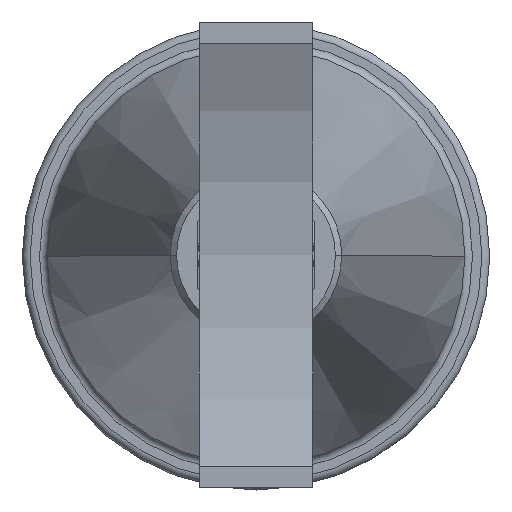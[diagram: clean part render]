
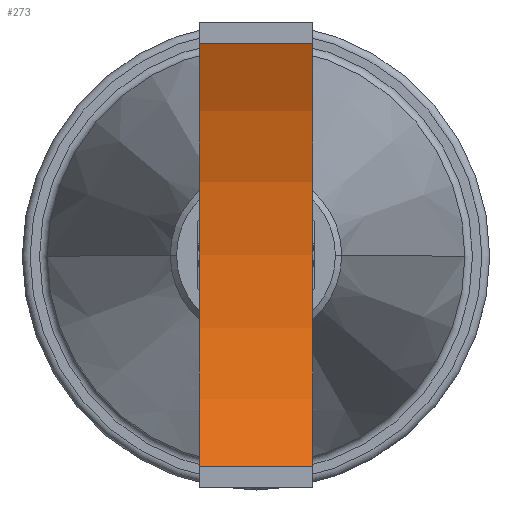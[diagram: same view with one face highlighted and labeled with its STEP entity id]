
A CAD part, top view. The second image highlights one B-rep face of the part: STEP entity #273.
In plain terms, the highlighted cylindrical face has radius 304.8 mm (diameter 609.6 mm), a partial arc.
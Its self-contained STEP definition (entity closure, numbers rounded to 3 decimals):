
#273=ADVANCED_FACE('',(#590),#591,.F.);
#590=FACE_OUTER_BOUND('',#988,.T.);
#591=CYLINDRICAL_SURFACE('',#989,304.8);
#988=EDGE_LOOP('',(#1556,#1557,#1558,#1559));
#989=AXIS2_PLACEMENT_3D('',#1560,#1561,#1562);
#1556=ORIENTED_EDGE('',*,*,#2376,.T.);
#1557=ORIENTED_EDGE('',*,*,#2377,.F.);
#1558=ORIENTED_EDGE('',*,*,#2378,.T.);
#1559=ORIENTED_EDGE('',*,*,#2373,.T.);
#1560=CARTESIAN_POINT('',(392.964,553.863,528.916));
#1561=DIRECTION('',(-1.0,0.,0.));
#1562=DIRECTION('',(0.,1.0,0.));
#2373=EDGE_CURVE('',#2822,#2820,#2823,.T.);
#2376=EDGE_CURVE('',#2820,#2826,#2827,.T.);
#2377=EDGE_CURVE('',#2828,#2826,#2829,.T.);
#2378=EDGE_CURVE('',#2828,#2822,#2830,.T.);
#2820=VERTEX_POINT('',#3540);
#2822=VERTEX_POINT('',#3543);
#2823=LINE('',#3544,#3545);
#2826=VERTEX_POINT('',#3549);
#2827=CIRCLE('',#3550,304.8);
#2828=VERTEX_POINT('',#3551);
#2829=LINE('',#3552,#3553);
#2830=CIRCLE('',#3554,304.8);
#3540=CARTESIAN_POINT('',(465.964,417.91,256.116));
#3543=CARTESIAN_POINT('',(392.964,417.91,256.116));
#3544=CARTESIAN_POINT('',(392.964,417.91,256.116));
#3545=VECTOR('',#4532,1.0);
#3549=CARTESIAN_POINT('',(465.964,689.816,256.116));
#3550=AXIS2_PLACEMENT_3D('',#4534,#4535,#4536);
#3551=CARTESIAN_POINT('',(392.964,689.816,256.116));
#3552=CARTESIAN_POINT('',(392.964,689.816,256.116));
#3553=VECTOR('',#4537,1.0);
#3554=AXIS2_PLACEMENT_3D('',#4538,#4539,#4540);
#4532=DIRECTION('',(1.0,0.,0.));
#4534=CARTESIAN_POINT('',(465.964,553.863,528.916));
#4535=DIRECTION('',(1.0,0.,0.));
#4536=DIRECTION('',(0.,1.0,0.));
#4537=DIRECTION('',(1.0,0.,0.));
#4538=CARTESIAN_POINT('',(392.964,553.863,528.916));
#4539=DIRECTION('',(-1.0,0.,0.));
#4540=DIRECTION('',(0.,1.0,0.));
